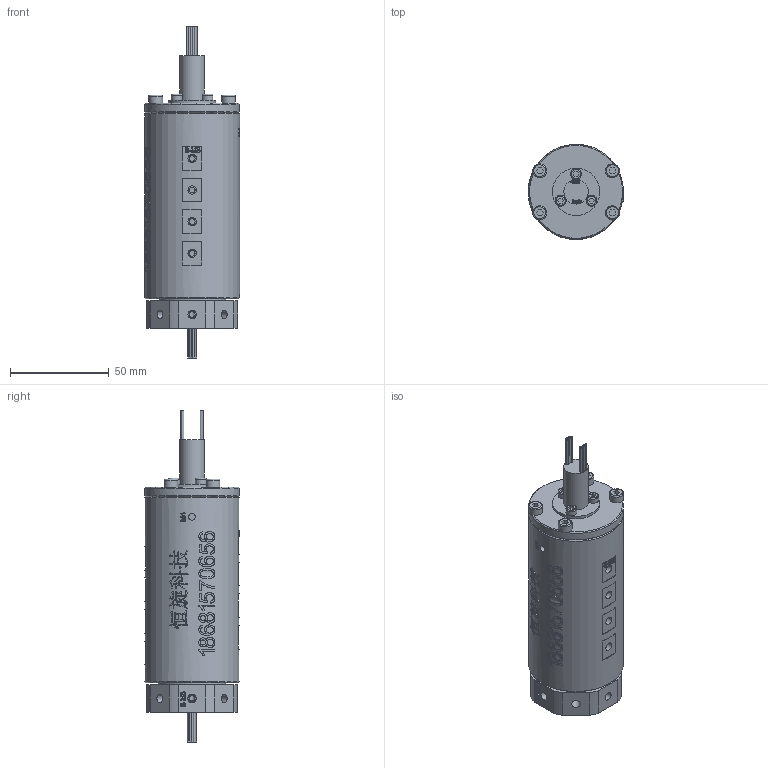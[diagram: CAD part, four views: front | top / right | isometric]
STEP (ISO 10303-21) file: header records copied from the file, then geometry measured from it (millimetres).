
FILE_DESCRIPTION(/* description */ (''),/* implementation_level */ '2;1');
FILE_NAME(/* name */ 'HQ08005-18M-3D模型.stp',/* time_stamp */ '2025-09-01T17:55:35+08:00',/* author */ (''),/* organization */ (''),/* preprocessor_version */ 'ST-DEVELOPER v16.7',/* originating_system */ 'SIEMENS PLM Software NX 12.0',/* authorisation */ '');
FILE_SCHEMA (('AUTOMOTIVE_DESIGN { 1 0 10303 214 3 1 1 1 }'));
Length unit declared in the file: millimetre
Products named in the file (1): AdmiB44865CDwe2f
Bounding box: 48.13 x 48 x 168 mm (x, y, z)
Volume: 205731.7 mm3; surface area: 30345.6 mm2
Topology: 1 solids, 4 shells, 1184 faces, 3068 edges, 2040 vertices
Faces by surface type: plane 553, extrusion 417, cylinder 160, bspline 38, cone 9, torus 7
Full cylindrical faces by diameter (mm): 0.8 x37, 3 x27, 3.4 x9, 4.1 x8, 4.2 x24, 5.5 x3, 6 x1, 7 x4, 12.4 x1, 23.9 x1, 34 x1, 42 x1, 48 x2
Entity records: 42485 total; most frequent: CARTESIAN_POINT 17786, ORIENTED_EDGE 5674, DIRECTION 3399, EDGE_CURVE 2837, B_SPLINE_CURVE_WITH_KNOTS 2200, VERTEX_POINT 1954, EDGE_LOOP 1487, AXIS2_PLACEMENT_3D 1202
